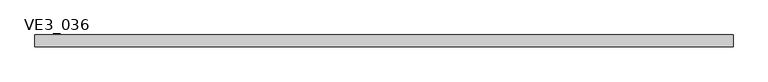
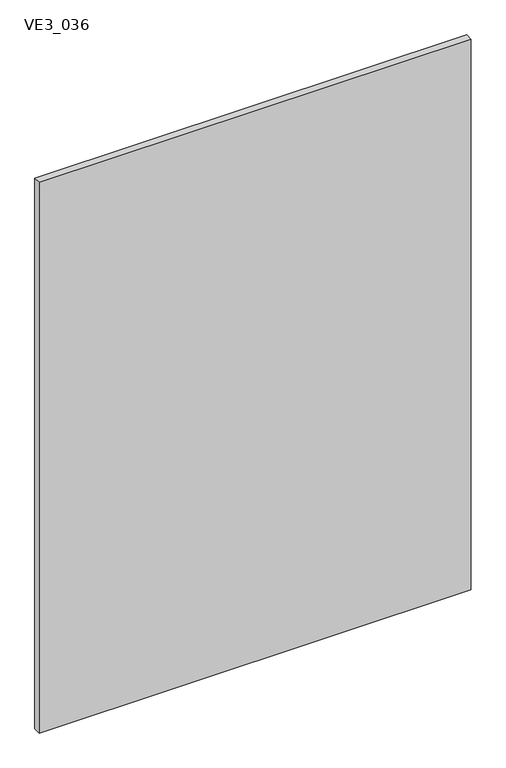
"""IFC4 building model written with IfcOpenShell, lengths in millimetres: plate geometry, TRP_CP_ARC_PF_RE_SE : VE3_036."""

from ifc_helpers import new_model, si_unit, frame, origin, place, context, project, spatial, polyline, outline, extrude, source, transform, mapped, element, save


def ve3_036_47e47b8d(model_context):
    return source(origin(), model_context, "Body", "SweptSolid", [
        extrude(outline(polyline([(1077.3175144, 18.0), (1077.3175144, -18.0), (-1077.3175144, -18.0), (-1077.3175144, 18.0), (1077.3175144, 18.0)])), frame((0.0, 0.0, -3.1739529), z_axis=(0.0, 0.0, 1.0), x_axis=(1.0, 0.0, 0.0)), (0.0, 0.0, 1.0), 2903.1739529),
    ])


if __name__ == "__main__":
    model = new_model("IFC4")
    model_context = context("Model", 3, world=origin())
    ifc_project = project(units=[si_unit("LENGTHUNIT", "METRE", prefix="MILLI")], contexts=[model_context])
    site = spatial("IfcSite", under=ifc_project)
    building = spatial("IfcBuilding", under=site)
    placement = place(None, origin())
    ve3_036_shape = ve3_036_47e47b8d(model_context)
    element("IfcPlate", 1, ObjectType="TRP_CP_ARC_PF_RE_SE : VE3_036", at=placement, inside=building, context=model_context, shape_type="MappedRepresentation", body=[
        mapped(ve3_036_shape, transform((0.0, 0.0, 0.0), x_axis=(1.0, 0.0, 0.0), y_axis=(0.0, 1.0, 0.0), z_axis=(0.0, 0.0, 1.0))),
    ])
    save(model, "model.ifc")
